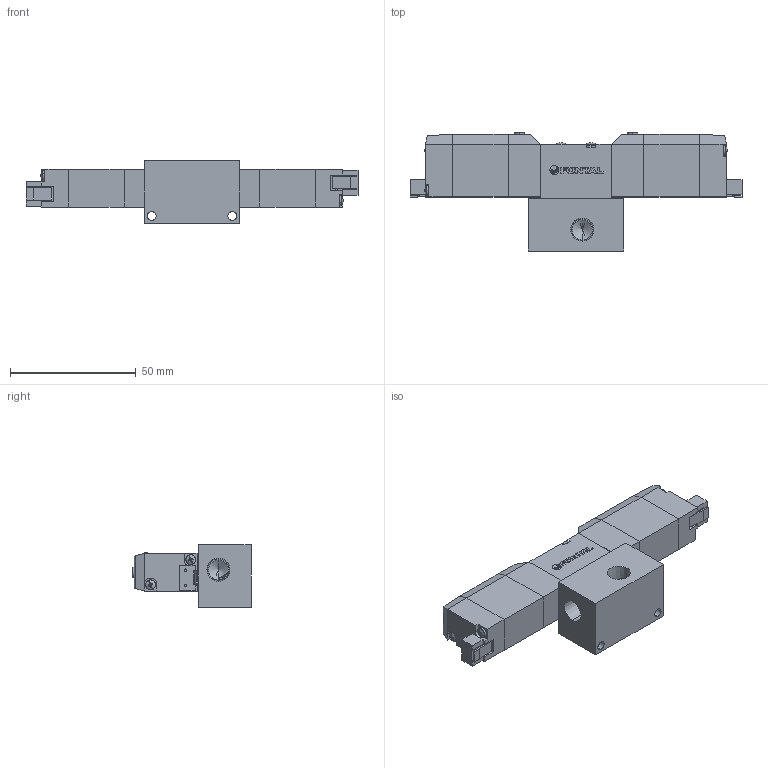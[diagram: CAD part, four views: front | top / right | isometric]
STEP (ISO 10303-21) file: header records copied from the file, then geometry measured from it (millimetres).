
FILE_DESCRIPTION (( 'STEP AP203' ), '1' );
FILE_NAME ('PCD245#-01-#-SP-#.STEP', '2016-02-04T03:41:52', ( 'Sam Lin' ), ( '' ), 'SwSTEP 2.0', 'SolidWorks 2013', '' );
FILE_SCHEMA (( 'CONFIG_CONTROL_DESIGN' ));
Length unit declared in the file: metre
Products named in the file (11): PC5-01-1; PC5-3; PC5-10; PC5-5; PCD245#-01-#-SP-#; PC-MARK; PC5-6; ISO 7045 - M2.5 x 25; PC5-7; ISO 7045 - M2 x 10; PC5-8
Assembly tree (19 placements, depth 2):
  PCD245#-01-#-SP-#
    PC5-3
    PC5-5  x2
    PC-MARK
    PC5-6  x2
    ISO 7045 - M2.5 x 25  x2
    PC5-7  x2
    ISO 7045 - M2 x 10  x4
    PC5-8  x2
    PC5-01-1
    PC5-10  x2
Bounding box: 132 x 47 x 25 mm (x, y, z)
Volume: 58431.2 mm3; surface area: 24418.7 mm2
Topology: 27 solids, 27 shells, 633 faces, 1565 edges, 981 vertices
Faces by surface type: plane 396, cylinder 105, cone 88, bspline 44
Entity records: 12376 total; most frequent: CARTESIAN_POINT 2492, ORIENTED_EDGE 1756, DIRECTION 1731, EDGE_CURVE 878, AXIS2_PLACEMENT_3D 583, VERTEX_POINT 568, VECTOR 565, LINE 565
